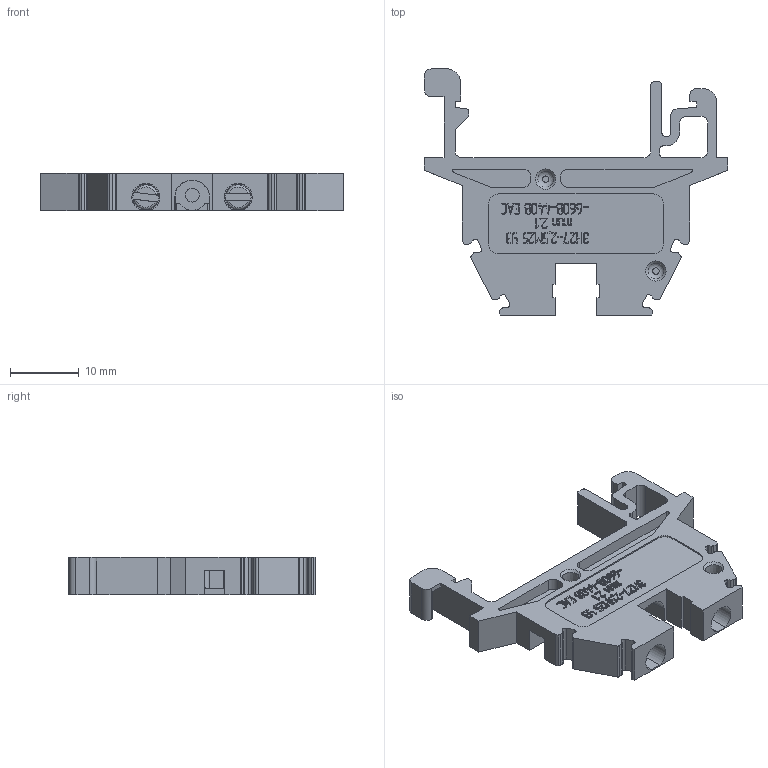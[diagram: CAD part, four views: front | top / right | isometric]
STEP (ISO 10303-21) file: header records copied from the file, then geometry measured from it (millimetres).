
FILE_DESCRIPTION(('STEP AP214'), '1');
FILE_NAME('Çàæèì ÇÍ27-2,5Ì25 òèï 2.1 áåç êðûøêè', '2023-07-31T13:07:07', (''), (''), 'ASCON STEP Converter 1.6', 'ASCON Math Kernel', '');
FILE_SCHEMA(('AUTOMOTIVE_DESIGN { 1 0 10303 214 3 1 1}'));
Length unit declared in the file: millimetre
Bounding box: 44 x 35.74 x 5.5 mm (x, y, z)
Volume: 3095.3 mm3; surface area: 4345 mm2
Topology: 1 solids, 1 shells, 2155 faces, 6313 edges, 4198 vertices
Faces by surface type: plane 1476, cylinder 649, cone 20, torus 10
Full cylindrical faces by diameter (mm): 2.013 x1, 2.6 x2, 3 x2
Entity records: 89418 total; most frequent: CARTESIAN_POINT 13713, ORIENTED_EDGE 12584, DIRECTION 11881, EDGE_CURVE 6292, LINE 4895, VECTOR 4895, VERTEX_POINT 4198, AXIS2_PLACEMENT_3D 3493
